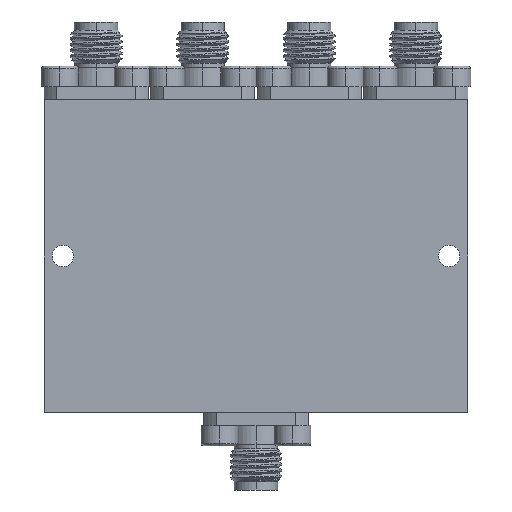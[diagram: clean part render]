
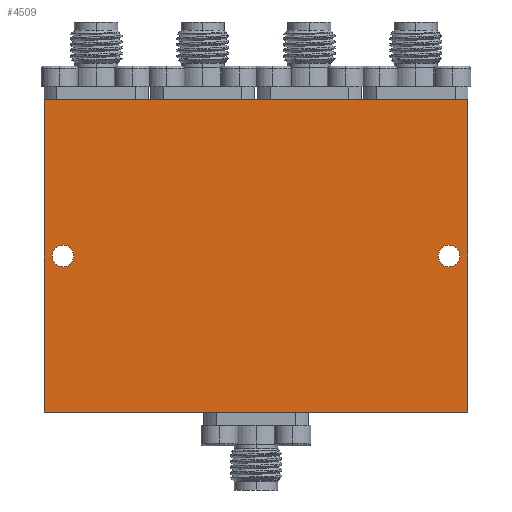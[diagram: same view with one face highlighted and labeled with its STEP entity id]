
A CAD part, left-side view. The second image highlights one B-rep face of the part: STEP entity #4509.
In plain terms, the highlighted planar face has unit normal (-1, 0, 0).
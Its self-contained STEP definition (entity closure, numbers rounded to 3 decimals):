
#66 = EDGE_CURVE ( 'NONE', #4655, #737, #5158, .T. ) ;
#114 = DIRECTION ( 'NONE',  ( 0., -1., 0. ) ) ;
#233 = LINE ( 'NONE', #839, #451 ) ;
#291 = CARTESIAN_POINT ( 'NONE',  ( 0., -25.85, 19.05 ) ) ;
#360 = CARTESIAN_POINT ( 'NONE',  ( 0., 23.55, 0. ) ) ;
#451 = VECTOR ( 'NONE', #1005, 1000. ) ;
#500 = EDGE_LOOP ( 'NONE', ( #4410, #1368 ) ) ;
#517 = ORIENTED_EDGE ( 'NONE', *, *, #3096, .F. ) ;
#576 = DIRECTION ( 'NONE',  ( 0., 0., -1. ) ) ;
#729 = CARTESIAN_POINT ( 'NONE',  ( 0., -25.85, 19.05 ) ) ;
#737 = VERTEX_POINT ( 'NONE', #5196 ) ;
#783 = ORIENTED_EDGE ( 'NONE', *, *, #3642, .T. ) ;
#792 = EDGE_CURVE ( 'NONE', #2752, #7491, #3229, .T. ) ;
#839 = CARTESIAN_POINT ( 'NONE',  ( 0., 25.85, -19.05 ) ) ;
#1005 = DIRECTION ( 'NONE',  ( 0., 1., 0. ) ) ;
#1042 = EDGE_CURVE ( 'NONE', #6228, #2466, #4044, .T. ) ;
#1263 = EDGE_CURVE ( 'NONE', #3767, #1374, #233, .T. ) ;
#1368 = ORIENTED_EDGE ( 'NONE', *, *, #1042, .T. ) ;
#1373 = CARTESIAN_POINT ( 'NONE',  ( 0., 23.55, 0. ) ) ;
#1374 = VERTEX_POINT ( 'NONE', #3012 ) ;
#1835 = AXIS2_PLACEMENT_3D ( 'NONE', #360, #5344, #2242 ) ;
#1938 = EDGE_CURVE ( 'NONE', #7491, #3767, #2584, .T. ) ;
#1956 = AXIS2_PLACEMENT_3D ( 'NONE', #2741, #2791, #7033 ) ;
#2200 = ORIENTED_EDGE ( 'NONE', *, *, #1938, .F. ) ;
#2242 = DIRECTION ( 'NONE',  ( 0., 0., -1. ) ) ;
#2429 = DIRECTION ( 'NONE',  ( 0., 0., 1. ) ) ;
#2457 = CARTESIAN_POINT ( 'NONE',  ( 0., 23.55, 1.3 ) ) ;
#2466 = VERTEX_POINT ( 'NONE', #2457 ) ;
#2584 = LINE ( 'NONE', #729, #3584 ) ;
#2663 = FACE_BOUND ( 'NONE', #500, .T. ) ;
#2666 = EDGE_LOOP ( 'NONE', ( #783, #5678 ) ) ;
#2741 = CARTESIAN_POINT ( 'NONE',  ( 0., 0., 0. ) ) ;
#2752 = VERTEX_POINT ( 'NONE', #3475 ) ;
#2791 = DIRECTION ( 'NONE',  ( 1., 0., 0. ) ) ;
#3012 = CARTESIAN_POINT ( 'NONE',  ( 0., 25.85, -19.05 ) ) ;
#3096 = EDGE_CURVE ( 'NONE', #1374, #2752, #6029, .T. ) ;
#3170 = DIRECTION ( 'NONE',  ( 0., 0., -1. ) ) ;
#3229 = LINE ( 'NONE', #5718, #6130 ) ;
#3312 = FACE_OUTER_BOUND ( 'NONE', #5133, .T. ) ;
#3440 = FACE_BOUND ( 'NONE', #2666, .T. ) ;
#3475 = CARTESIAN_POINT ( 'NONE',  ( 0., 25.85, 19.05 ) ) ;
#3491 = ORIENTED_EDGE ( 'NONE', *, *, #1263, .F. ) ;
#3502 = DIRECTION ( 'NONE',  ( 0., 0., -1. ) ) ;
#3584 = VECTOR ( 'NONE', #576, 1000. ) ;
#3622 = CARTESIAN_POINT ( 'NONE',  ( 0., -23.55, 0. ) ) ;
#3642 = EDGE_CURVE ( 'NONE', #737, #4655, #6158, .T. ) ;
#3767 = VERTEX_POINT ( 'NONE', #4350 ) ;
#3857 = DIRECTION ( 'NONE',  ( 1., 0., 0. ) ) ;
#3956 = PLANE ( 'NONE',  #1956 ) ;
#3998 = ORIENTED_EDGE ( 'NONE', *, *, #792, .F. ) ;
#4044 = CIRCLE ( 'NONE', #5080, 1.3 ) ;
#4350 = CARTESIAN_POINT ( 'NONE',  ( 0., -25.85, -19.05 ) ) ;
#4410 = ORIENTED_EDGE ( 'NONE', *, *, #4826, .T. ) ;
#4509 = ADVANCED_FACE ( 'NONE', ( #3312, #2663, #3440 ), #3956, .F. ) ;
#4655 = VERTEX_POINT ( 'NONE', #7301 ) ;
#4826 = EDGE_CURVE ( 'NONE', #2466, #6228, #5361, .T. ) ;
#5080 = AXIS2_PLACEMENT_3D ( 'NONE', #1373, #3857, #3170 ) ;
#5133 = EDGE_LOOP ( 'NONE', ( #3491, #2200, #3998, #517 ) ) ;
#5158 = CIRCLE ( 'NONE', #5951, 1.3 ) ;
#5196 = CARTESIAN_POINT ( 'NONE',  ( 0., -23.55, 1.3 ) ) ;
#5344 = DIRECTION ( 'NONE',  ( 1., 0., 0. ) ) ;
#5361 = CIRCLE ( 'NONE', #1835, 1.3 ) ;
#5678 = ORIENTED_EDGE ( 'NONE', *, *, #66, .T. ) ;
#5718 = CARTESIAN_POINT ( 'NONE',  ( 0., 25.85, 19.05 ) ) ;
#5731 = DIRECTION ( 'NONE',  ( 1., 0., 0. ) ) ;
#5951 = AXIS2_PLACEMENT_3D ( 'NONE', #3622, #6038, #3502 ) ;
#6029 = LINE ( 'NONE', #6724, #7719 ) ;
#6038 = DIRECTION ( 'NONE',  ( 1., 0., 0. ) ) ;
#6130 = VECTOR ( 'NONE', #114, 1000. ) ;
#6158 = CIRCLE ( 'NONE', #7726, 1.3 ) ;
#6228 = VERTEX_POINT ( 'NONE', #6485 ) ;
#6485 = CARTESIAN_POINT ( 'NONE',  ( 0., 23.55, -1.3 ) ) ;
#6724 = CARTESIAN_POINT ( 'NONE',  ( 0., 25.85, 19.05 ) ) ;
#7012 = DIRECTION ( 'NONE',  ( 0., 0., -1. ) ) ;
#7033 = DIRECTION ( 'NONE',  ( 0., 0., -1. ) ) ;
#7301 = CARTESIAN_POINT ( 'NONE',  ( 0., -23.55, -1.3 ) ) ;
#7491 = VERTEX_POINT ( 'NONE', #291 ) ;
#7501 = CARTESIAN_POINT ( 'NONE',  ( 0., -23.55, 0. ) ) ;
#7719 = VECTOR ( 'NONE', #2429, 1000. ) ;
#7726 = AXIS2_PLACEMENT_3D ( 'NONE', #7501, #5731, #7012 ) ;
